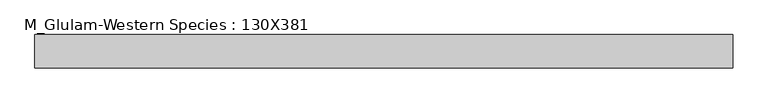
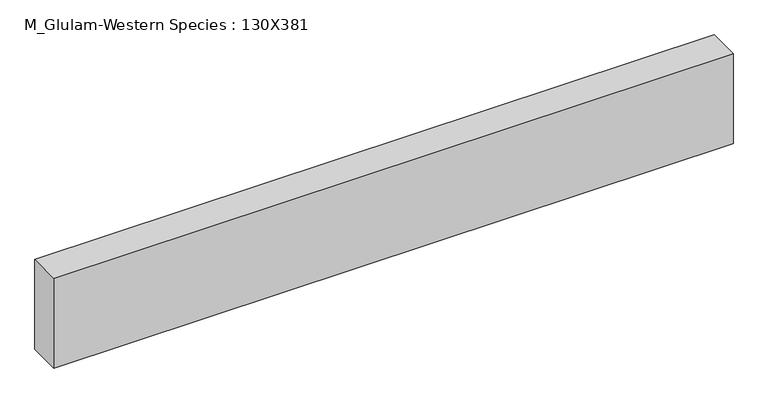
"""IFC4 building model written with IfcOpenShell, lengths in millimetres: beam geometry, M_Glulam-Western Species : 130X381."""

from ifc_helpers import new_model, si_unit, frame, origin, place, context, project, spatial, polyline, outline, extrude, source, transform, mapped, element, save


def m_glulam_western_species_130x381_f77135f9(model_context):
    return source(origin(), model_context, "Body", "SweptSolid", [
        extrude(outline(polyline([(1360.0, 65.0), (1360.0, -65.0), (-1360.0, -65.0), (-1360.0, 65.0), (1360.0, 65.0)])), frame((0.0, 0.0, -190.5), z_axis=(0.0, 0.0, 1.0), x_axis=(1.0, 0.0, 0.0)), (0.0, 0.0, 1.0), 381.0),
    ])


if __name__ == "__main__":
    model = new_model("IFC4")
    model_context = context("Model", 3, world=origin())
    ifc_project = project(units=[si_unit("LENGTHUNIT", "METRE", prefix="MILLI")], contexts=[model_context])
    site = spatial("IfcSite", under=ifc_project)
    building = spatial("IfcBuilding", under=site)
    placement = place(None, origin())
    m_glulam_western_species_130x381_shape = m_glulam_western_species_130x381_f77135f9(model_context)
    element("IfcBeam", 1, ObjectType="M_Glulam-Western Species : 130X381", at=placement, inside=building, context=model_context, shape_type="MappedRepresentation", body=[
        mapped(m_glulam_western_species_130x381_shape, transform((0.0, 0.0, 0.0), x_axis=(1.0, 0.0, 0.0), y_axis=(0.0, 1.0, 0.0), z_axis=(0.0, 0.0, 1.0))),
    ])
    save(model, "model.ifc")
